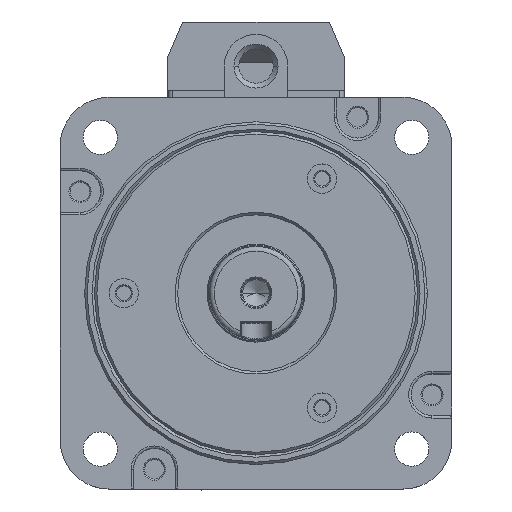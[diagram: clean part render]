
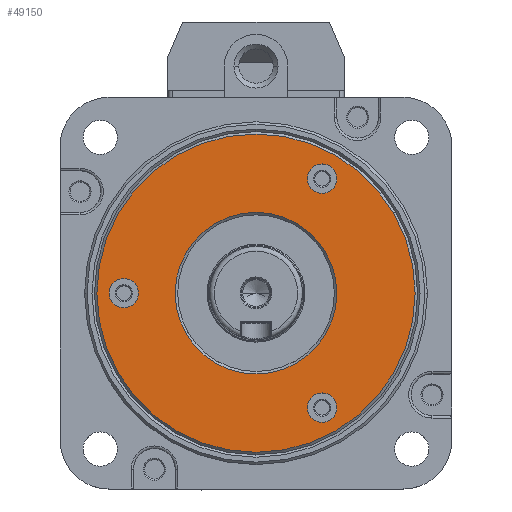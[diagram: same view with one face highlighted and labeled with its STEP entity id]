
A CAD part, top view. The second image highlights one B-rep face of the part: STEP entity #49150.
In plain terms, the highlighted planar face has unit normal (0, 0, 1) as drawn and (0, 0, -1) by its records, which use the part's own axes.
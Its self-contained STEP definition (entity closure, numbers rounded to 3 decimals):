
#48607=CARTESIAN_POINT('',(0.,27.,0.));
#48608=DIRECTION('',(0.,0.,-1.));
#48609=DIRECTION('',(-1.,0.,0.));
#48610=AXIS2_PLACEMENT_3D('',#48607,#48608,#48609);
#48612=CARTESIAN_POINT('',(0.,27.,0.));
#48613=DIRECTION('',(0.,0.,-1.));
#48614=DIRECTION('',(1.,0.,0.));
#48615=AXIS2_PLACEMENT_3D('',#48612,#48613,#48614);
#48617=CARTESIAN_POINT('',(23.383,-13.5,0.));
#48618=DIRECTION('',(0.,0.,-1.));
#48619=DIRECTION('',(-1.,0.,0.));
#48620=AXIS2_PLACEMENT_3D('',#48617,#48618,#48619);
#48622=CARTESIAN_POINT('',(23.383,-13.5,0.));
#48623=DIRECTION('',(0.,0.,-1.));
#48624=DIRECTION('',(1.,0.,0.));
#48625=AXIS2_PLACEMENT_3D('',#48622,#48623,#48624);
#48627=CARTESIAN_POINT('',(-23.383,-13.5,0.));
#48628=DIRECTION('',(0.,0.,-1.));
#48629=DIRECTION('',(-1.,0.,0.));
#48630=AXIS2_PLACEMENT_3D('',#48627,#48628,#48629);
#48632=CARTESIAN_POINT('',(-23.383,-13.5,0.));
#48633=DIRECTION('',(0.,0.,-1.));
#48634=DIRECTION('',(1.,0.,0.));
#48635=AXIS2_PLACEMENT_3D('',#48632,#48633,#48634);
#48637=CARTESIAN_POINT('',(0.,0.,
0.));
#48638=DIRECTION('',(0.,0.,1.));
#48639=DIRECTION('',(1.,0.,0.));
#48640=AXIS2_PLACEMENT_3D('',#48637,#48638,#48639);
#48642=CARTESIAN_POINT('',(0.,0.,0.));
#48643=DIRECTION('',(0.,0.,1.));
#48644=DIRECTION('',(-1.,0.,0.));
#48645=AXIS2_PLACEMENT_3D('',#48642,#48643,#48644);
#48647=CARTESIAN_POINT('',(0.,0.,0.));
#48648=DIRECTION('',(0.,0.,-1.));
#48649=DIRECTION('',(1.,0.,0.));
#48650=AXIS2_PLACEMENT_3D('',#48647,#48648,#48649);
#48652=CARTESIAN_POINT('',(0.,0.,
0.));
#48653=DIRECTION('',(0.,0.,-1.));
#48654=DIRECTION('',(-1.,0.,0.));
#48655=AXIS2_PLACEMENT_3D('',#48652,#48653,#48654);
#49051=CARTESIAN_POINT('',(-3.,27.,0.));
#49052=CARTESIAN_POINT('',(3.,27.,0.));
#49053=VERTEX_POINT('',#49051);
#49054=VERTEX_POINT('',#49052);
#49055=CARTESIAN_POINT('',(20.383,-13.5,0.));
#49056=CARTESIAN_POINT('',(26.383,-13.5,0.));
#49057=VERTEX_POINT('',#49055);
#49058=VERTEX_POINT('',#49056);
#49059=CARTESIAN_POINT('',(-26.383,-13.5,0.));
#49060=CARTESIAN_POINT('',(-20.383,-13.5,0.));
#49061=VERTEX_POINT('',#49059);
#49062=VERTEX_POINT('',#49060);
#49083=CARTESIAN_POINT('',(16.5,0.,0.));
#49084=CARTESIAN_POINT('',(-16.5,0.,0.));
#49085=VERTEX_POINT('',#49083);
#49086=VERTEX_POINT('',#49084);
#49099=CARTESIAN_POINT('',(32.5,0.,0.));
#49100=CARTESIAN_POINT('',(-32.5,0.,0.));
#49101=VERTEX_POINT('',#49099);
#49102=VERTEX_POINT('',#49100);
#49115=CARTESIAN_POINT('',(0.,0.,0.));
#49116=DIRECTION('',(0.,0.,1.));
#49117=DIRECTION('',(1.,0.,0.));
#49118=AXIS2_PLACEMENT_3D('',#49115,#49116,#49117);
#49119=PLANE('',#49118);
#49121=ORIENTED_EDGE('',*,*,#49120,.F.);
#49123=ORIENTED_EDGE('',*,*,#49122,.F.);
#49124=EDGE_LOOP('',(#49121,#49123));
#49125=FACE_OUTER_BOUND('',#49124,.F.);
#49127=ORIENTED_EDGE('',*,*,#49126,.T.);
#49129=ORIENTED_EDGE('',*,*,#49128,.T.);
#49130=EDGE_LOOP('',(#49127,#49129));
#49131=FACE_BOUND('',#49130,.F.);
#49133=ORIENTED_EDGE('',*,*,#49132,.T.);
#49135=ORIENTED_EDGE('',*,*,#49134,.T.);
#49136=EDGE_LOOP('',(#49133,#49135));
#49137=FACE_BOUND('',#49136,.F.);
#49139=ORIENTED_EDGE('',*,*,#49138,.F.);
#49141=ORIENTED_EDGE('',*,*,#49140,.F.);
#49142=EDGE_LOOP('',(#49139,#49141));
#49143=FACE_BOUND('',#49142,.F.);
#49145=ORIENTED_EDGE('',*,*,#49144,.T.);
#49147=ORIENTED_EDGE('',*,*,#49146,.T.);
#49148=EDGE_LOOP('',(#49145,#49147));
#49149=FACE_BOUND('',#49148,.F.);
#48611=CIRCLE('',#48610,3.);
#48616=CIRCLE('',#48615,3.);
#48621=CIRCLE('',#48620,3.);
#48626=CIRCLE('',#48625,3.);
#48631=CIRCLE('',#48630,3.);
#48636=CIRCLE('',#48635,3.);
#48641=CIRCLE('',#48640,16.5);
#48646=CIRCLE('',#48645,16.5);
#48651=CIRCLE('',#48650,32.5);
#48656=CIRCLE('',#48655,32.5);
#49120=EDGE_CURVE('',#49101,#49102,#48651,.T.);
#49122=EDGE_CURVE('',#49102,#49101,#48656,.T.);
#49126=EDGE_CURVE('',#49057,#49058,#48621,.T.);
#49128=EDGE_CURVE('',#49058,#49057,#48626,.T.);
#49132=EDGE_CURVE('',#49061,#49062,#48631,.T.);
#49134=EDGE_CURVE('',#49062,#49061,#48636,.T.);
#49138=EDGE_CURVE('',#49085,#49086,#48641,.T.);
#49140=EDGE_CURVE('',#49086,#49085,#48646,.T.);
#49144=EDGE_CURVE('',#49053,#49054,#48611,.T.);
#49146=EDGE_CURVE('',#49054,#49053,#48616,.T.);
#49150=ADVANCED_FACE('',(#49125,#49131,#49137,#49143,#49149),#49119,.F.);
